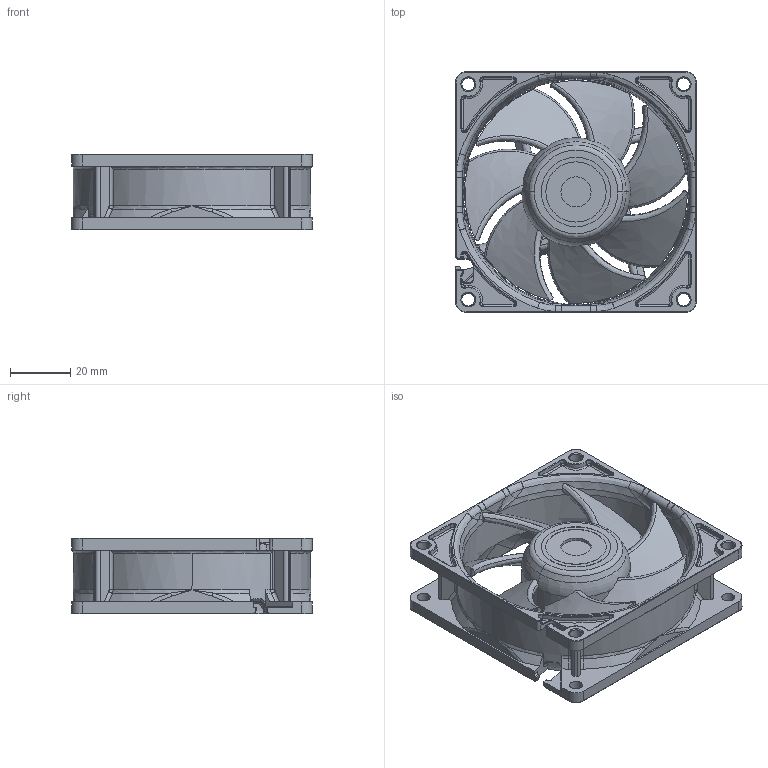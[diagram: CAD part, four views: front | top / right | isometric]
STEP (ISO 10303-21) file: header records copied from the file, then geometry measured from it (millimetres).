
FILE_DESCRIPTION (( 'STEP AP203' ), '1' );
FILE_NAME ('80x25LG.STEP', '2017-01-23T09:26:41', ( '' ), ( '' ), 'SwSTEP 2.0', 'SolidWorks 2016', '' );
FILE_SCHEMA (( 'CONFIG_CONTROL_DESIGN' ));
Length unit declared in the file: millimetre
Products named in the file (1): 80x25LG
Bounding box: 80 x 80 x 25.2 mm (x, y, z)
Volume: 55227.8 mm3; surface area: 33755 mm2
Topology: 1 solids, 1 shells, 825 faces, 2102 edges, 1257 vertices
Faces by surface type: bspline 362, cylinder 222, plane 146, cone 88, torus 7
Entity records: 58841 total; most frequent: CARTESIAN_POINT 43071, ORIENTED_EDGE 4142, EDGE_CURVE 2071, DIRECTION 1663, B_SPLINE_CURVE_WITH_KNOTS 1413, VERTEX_POINT 1257, EDGE_LOOP 858, FACE_OUTER_BOUND 825
